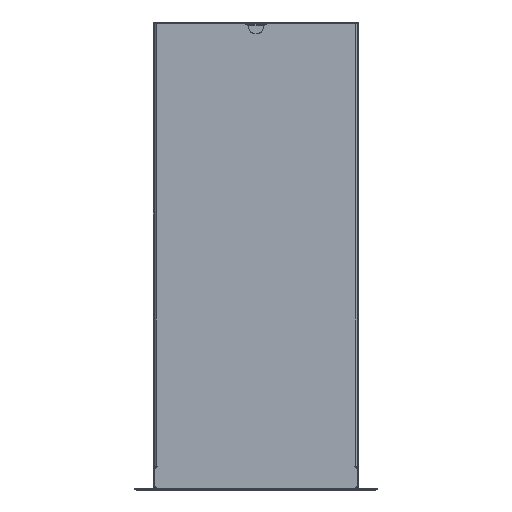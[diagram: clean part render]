
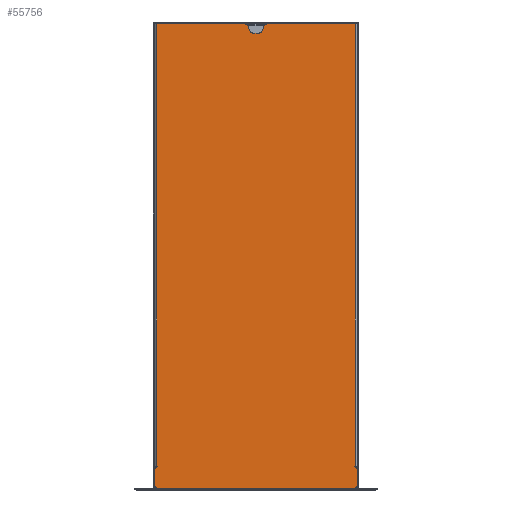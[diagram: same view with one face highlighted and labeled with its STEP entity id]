
A CAD part, top view. The second image highlights one B-rep face of the part: STEP entity #55756.
In plain terms, the highlighted planar face has unit normal (0, 0, 1).
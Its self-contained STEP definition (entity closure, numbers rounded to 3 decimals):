
#54942=CARTESIAN_POINT('',(-105.5,-225.75,24.));
#54943=DIRECTION('',(0.,0.,-1.));
#54944=DIRECTION('',(0.,1.,0.));
#54945=AXIS2_PLACEMENT_3D('',#54942,#54943,#54944);
#54947=CARTESIAN_POINT('',(-12.5,242.25,24.));
#54948=DIRECTION('',(0.,0.,1.));
#54949=DIRECTION('',(1.,0.,0.));
#54950=AXIS2_PLACEMENT_3D('',#54947,#54948,#54949);
#54952=CARTESIAN_POINT('',(-2.5,242.25,24.));
#54953=DIRECTION('',(0.,0.,-1.));
#54954=DIRECTION('',(0.,-1.,0.));
#54955=AXIS2_PLACEMENT_3D('',#54952,#54953,#54954);
#54957=CARTESIAN_POINT('',(2.5,242.25,24.));
#54958=DIRECTION('',(0.,0.,-1.));
#54959=DIRECTION('',(1.,0.,0.));
#54960=AXIS2_PLACEMENT_3D('',#54957,#54958,#54959);
#54962=CARTESIAN_POINT('',(12.5,242.25,24.));
#54963=DIRECTION('',(0.,0.,1.));
#54964=DIRECTION('',(0.,1.,0.));
#54965=AXIS2_PLACEMENT_3D('',#54962,#54963,#54964);
#54967=CARTESIAN_POINT('',(105.5,-225.75,24.));
#54968=DIRECTION('',(0.,0.,-1.));
#54969=DIRECTION('',(-1.,0.,0.));
#54970=AXIS2_PLACEMENT_3D('',#54967,#54968,#54969);
#54972=CARTESIAN_POINT('',(105.5,-225.75,24.));
#54973=DIRECTION('',(0.,0.,-1.));
#54974=DIRECTION('',(0.,-1.,0.));
#54975=AXIS2_PLACEMENT_3D('',#54972,#54973,#54974);
#54977=CARTESIAN_POINT('',(106.,-228.25,24.));
#54978=DIRECTION('',(0.,0.,1.));
#54979=DIRECTION('',(1.,0.,0.));
#54980=AXIS2_PLACEMENT_3D('',#54977,#54978,#54979);
#54982=CARTESIAN_POINT('',(106.,-246.75,24.));
#54983=DIRECTION('',(0.,0.,1.));
#54984=DIRECTION('',(0.,-1.,0.));
#54985=AXIS2_PLACEMENT_3D('',#54982,#54983,#54984);
#54987=CARTESIAN_POINT('',(-106.,-246.75,24.));
#54988=DIRECTION('',(0.,0.,1.));
#54989=DIRECTION('',(-1.,0.,0.));
#54990=AXIS2_PLACEMENT_3D('',#54987,#54988,#54989);
#54992=CARTESIAN_POINT('',(-106.,-228.25,24.));
#54993=DIRECTION('',(0.,0.,1.));
#54994=DIRECTION('',(0.,1.,0.));
#54995=AXIS2_PLACEMENT_3D('',#54992,#54993,#54994);
#54997=CARTESIAN_POINT('',(-105.5,-225.75,24.));
#54998=DIRECTION('',(0.,0.,-1.));
#54999=DIRECTION('',(1.,0.,0.));
#55000=AXIS2_PLACEMENT_3D('',#54997,#54998,#54999);
#55014=DIRECTION('',(1.,0.,0.));
#55015=VECTOR('',#55014,0.5);
#55016=CARTESIAN_POINT('',(-106.,-226.25,24.));
#55017=LINE('',#55016,#55015);
#55026=DIRECTION('',(0.,1.,0.));
#55027=VECTOR('',#55026,18.5);
#55028=CARTESIAN_POINT('',(-108.,-246.75,24.));
#55029=LINE('',#55028,#55027);
#55138=DIRECTION('',(-1.,0.,0.));
#55139=VECTOR('',#55138,212.);
#55140=CARTESIAN_POINT('',(106.,-248.75,24.));
#55141=LINE('',#55140,#55139);
#55150=DIRECTION('',(0.,-1.,0.));
#55151=VECTOR('',#55150,18.5);
#55152=CARTESIAN_POINT('',(108.,-228.25,24.));
#55153=LINE('',#55152,#55151);
#55162=DIRECTION('',(1.,0.,0.));
#55163=VECTOR('',#55162,0.5);
#55164=CARTESIAN_POINT('',(105.5,-226.25,24.));
#55165=LINE('',#55164,#55163);
#55178=DIRECTION('',(-1.,0.,0.));
#55179=VECTOR('',#55178,0.5);
#55180=CARTESIAN_POINT('',(106.,-225.25,24.));
#55181=LINE('',#55180,#55179);
#55196=DIRECTION('',(0.,-1.,0.));
#55197=VECTOR('',#55196,472.5);
#55198=CARTESIAN_POINT('',(106.,247.25,24.));
#55199=LINE('',#55198,#55197);
#55332=DIRECTION('',(1.,0.,0.));
#55333=VECTOR('',#55332,93.5);
#55334=CARTESIAN_POINT('',(12.5,247.25,24.));
#55335=LINE('',#55334,#55333);
#55344=DIRECTION('',(1.,0.,0.));
#55345=VECTOR('',#55344,5.);
#55346=CARTESIAN_POINT('',(-2.5,237.25,24.));
#55347=LINE('',#55346,#55345);
#55360=DIRECTION('',(1.,0.,0.));
#55361=VECTOR('',#55360,93.5);
#55362=CARTESIAN_POINT('',(-106.,247.25,24.));
#55363=LINE('',#55362,#55361);
#55382=DIRECTION('',(0.,1.,0.));
#55383=VECTOR('',#55382,472.5);
#55384=CARTESIAN_POINT('',(-106.,-225.25,24.));
#55385=LINE('',#55384,#55383);
#55514=DIRECTION('',(-1.,0.,0.));
#55515=VECTOR('',#55514,0.5);
#55516=CARTESIAN_POINT('',(-105.5,-225.25,24.));
#55517=LINE('',#55516,#55515);
#55518=CARTESIAN_POINT('',(7.5,242.25,24.));
#55519=CARTESIAN_POINT('',(2.5,237.25,24.));
#55520=VERTEX_POINT('',#55518);
#55521=VERTEX_POINT('',#55519);
#55526=CARTESIAN_POINT('',(-2.5,237.25,24.));
#55527=CARTESIAN_POINT('',(-7.5,242.25,24.));
#55528=VERTEX_POINT('',#55526);
#55529=VERTEX_POINT('',#55527);
#55538=CARTESIAN_POINT('',(105.5,-226.25,24.));
#55539=VERTEX_POINT('',#55538);
#55540=CARTESIAN_POINT('',(106.,-226.25,24.));
#55541=VERTEX_POINT('',#55540);
#55602=CARTESIAN_POINT('',(106.,-225.25,24.));
#55603=CARTESIAN_POINT('',(105.5,-225.25,24.));
#55604=VERTEX_POINT('',#55602);
#55605=VERTEX_POINT('',#55603);
#55614=CARTESIAN_POINT('',(-105.5,-225.25,24.));
#55615=VERTEX_POINT('',#55614);
#55616=CARTESIAN_POINT('',(-106.,-225.25,24.));
#55617=VERTEX_POINT('',#55616);
#55618=CARTESIAN_POINT('',(-106.,-226.25,24.));
#55619=CARTESIAN_POINT('',(-105.5,-226.25,24.));
#55620=VERTEX_POINT('',#55618);
#55621=VERTEX_POINT('',#55619);
#55626=CARTESIAN_POINT('',(-105.,-225.75,24.));
#55627=VERTEX_POINT('',#55626);
#55628=CARTESIAN_POINT('',(-108.,-228.25,24.));
#55629=VERTEX_POINT('',#55628);
#55630=CARTESIAN_POINT('',(-108.,-246.75,24.));
#55631=VERTEX_POINT('',#55630);
#55632=CARTESIAN_POINT('',(-106.,-248.75,24.));
#55633=VERTEX_POINT('',#55632);
#55634=CARTESIAN_POINT('',(106.,-248.75,24.));
#55635=VERTEX_POINT('',#55634);
#55636=CARTESIAN_POINT('',(108.,-246.75,24.));
#55637=VERTEX_POINT('',#55636);
#55638=CARTESIAN_POINT('',(108.,-228.25,24.));
#55639=VERTEX_POINT('',#55638);
#55640=CARTESIAN_POINT('',(105.,-225.75,24.));
#55641=VERTEX_POINT('',#55640);
#55642=CARTESIAN_POINT('',(106.,247.25,24.));
#55643=VERTEX_POINT('',#55642);
#55644=CARTESIAN_POINT('',(12.5,247.25,24.));
#55645=VERTEX_POINT('',#55644);
#55646=CARTESIAN_POINT('',(-12.5,247.25,24.));
#55647=VERTEX_POINT('',#55646);
#55648=CARTESIAN_POINT('',(-106.,247.25,24.));
#55649=VERTEX_POINT('',#55648);
#55702=CARTESIAN_POINT('',(0.,0.,24.));
#55703=DIRECTION('',(0.,0.,1.));
#55704=DIRECTION('',(1.,0.,0.));
#55705=AXIS2_PLACEMENT_3D('',#55702,#55703,#55704);
#55706=PLANE('',#55705);
#55708=ORIENTED_EDGE('',*,*,#55707,.F.);
#55710=ORIENTED_EDGE('',*,*,#55709,.T.);
#55712=ORIENTED_EDGE('',*,*,#55711,.T.);
#55714=ORIENTED_EDGE('',*,*,#55713,.T.);
#55716=ORIENTED_EDGE('',*,*,#55715,.F.);
#55718=ORIENTED_EDGE('',*,*,#55717,.F.);
#55720=ORIENTED_EDGE('',*,*,#55719,.T.);
#55722=ORIENTED_EDGE('',*,*,#55721,.F.);
#55723=ORIENTED_EDGE('',*,*,#55691,.F.);
#55725=ORIENTED_EDGE('',*,*,#55724,.T.);
#55727=ORIENTED_EDGE('',*,*,#55726,.T.);
#55729=ORIENTED_EDGE('',*,*,#55728,.T.);
#55731=ORIENTED_EDGE('',*,*,#55730,.F.);
#55733=ORIENTED_EDGE('',*,*,#55732,.F.);
#55735=ORIENTED_EDGE('',*,*,#55734,.T.);
#55737=ORIENTED_EDGE('',*,*,#55736,.F.);
#55739=ORIENTED_EDGE('',*,*,#55738,.T.);
#55741=ORIENTED_EDGE('',*,*,#55740,.F.);
#55743=ORIENTED_EDGE('',*,*,#55742,.T.);
#55745=ORIENTED_EDGE('',*,*,#55744,.F.);
#55747=ORIENTED_EDGE('',*,*,#55746,.T.);
#55749=ORIENTED_EDGE('',*,*,#55748,.F.);
#55751=ORIENTED_EDGE('',*,*,#55750,.T.);
#55753=ORIENTED_EDGE('',*,*,#55752,.F.);
#55754=EDGE_LOOP('',(#55708,#55710,#55712,#55714,#55716,#55718,#55720,#55722,
#55723,#55725,#55727,#55729,#55731,#55733,#55735,#55737,#55739,#55741,#55743,
#55745,#55747,#55749,#55751,#55753));
#55755=FACE_OUTER_BOUND('',#55754,.F.);
#55756=ADVANCED_FACE('',(#55755),#55706,.T.);
#54946=CIRCLE('',#54945,0.5);
#54951=CIRCLE('',#54950,5.);
#54956=CIRCLE('',#54955,5.);
#54961=CIRCLE('',#54960,5.);
#54966=CIRCLE('',#54965,5.);
#54971=CIRCLE('',#54970,0.5);
#54976=CIRCLE('',#54975,0.5);
#54981=CIRCLE('',#54980,2.);
#54986=CIRCLE('',#54985,2.);
#54991=CIRCLE('',#54990,2.);
#54996=CIRCLE('',#54995,2.);
#55001=CIRCLE('',#55000,0.5);
#55691=EDGE_CURVE('',#55645,#55520,#54966,.T.);
#55707=EDGE_CURVE('',#55615,#55627,#54946,.T.);
#55709=EDGE_CURVE('',#55615,#55617,#55517,.T.);
#55711=EDGE_CURVE('',#55617,#55649,#55385,.T.);
#55713=EDGE_CURVE('',#55649,#55647,#55363,.T.);
#55715=EDGE_CURVE('',#55529,#55647,#54951,.T.);
#55717=EDGE_CURVE('',#55528,#55529,#54956,.T.);
#55719=EDGE_CURVE('',#55528,#55521,#55347,.T.);
#55721=EDGE_CURVE('',#55520,#55521,#54961,.T.);
#55724=EDGE_CURVE('',#55645,#55643,#55335,.T.);
#55726=EDGE_CURVE('',#55643,#55604,#55199,.T.);
#55728=EDGE_CURVE('',#55604,#55605,#55181,.T.);
#55730=EDGE_CURVE('',#55641,#55605,#54971,.T.);
#55732=EDGE_CURVE('',#55539,#55641,#54976,.T.);
#55734=EDGE_CURVE('',#55539,#55541,#55165,.T.);
#55736=EDGE_CURVE('',#55639,#55541,#54981,.T.);
#55738=EDGE_CURVE('',#55639,#55637,#55153,.T.);
#55740=EDGE_CURVE('',#55635,#55637,#54986,.T.);
#55742=EDGE_CURVE('',#55635,#55633,#55141,.T.);
#55744=EDGE_CURVE('',#55631,#55633,#54991,.T.);
#55746=EDGE_CURVE('',#55631,#55629,#55029,.T.);
#55748=EDGE_CURVE('',#55620,#55629,#54996,.T.);
#55750=EDGE_CURVE('',#55620,#55621,#55017,.T.);
#55752=EDGE_CURVE('',#55627,#55621,#55001,.T.);
